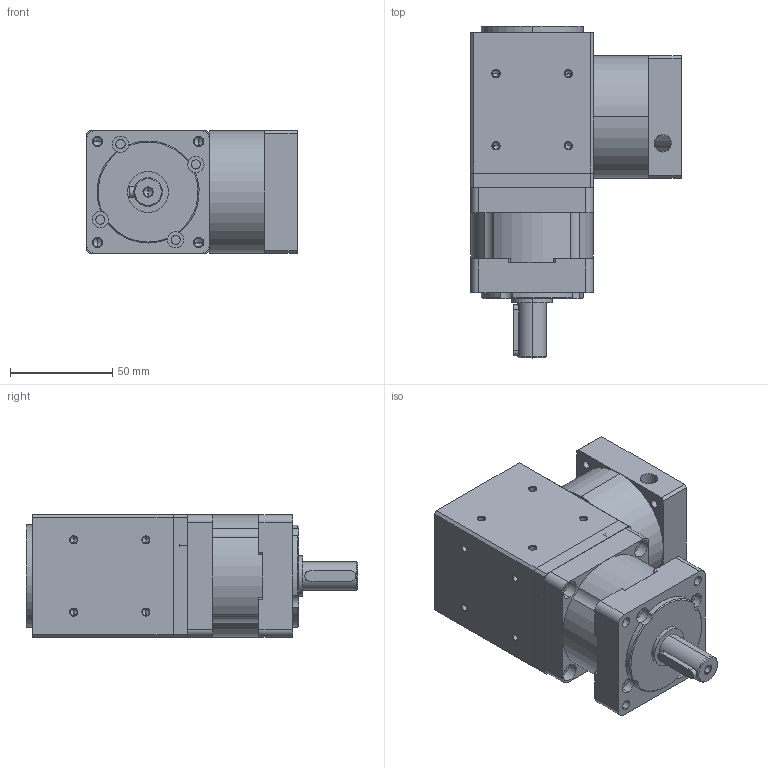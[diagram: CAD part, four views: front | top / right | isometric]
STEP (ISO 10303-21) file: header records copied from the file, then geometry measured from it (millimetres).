
FILE_DESCRIPTION (( 'STEP AP214' ), '1' );
FILE_NAME ('QLAS-060-000-SMBAC21-Rev2.STEP', '2015-07-29T15:47:00', ( '' ), ( '' ), 'SwSTEP 2.0', 'SolidWorks 2015', '' );
FILE_SCHEMA (( 'AUTOMOTIVE_DESIGN' ));
Length unit declared in the file: millimetre
Products named in the file (7): B6807ZZ_B6807ZZ; bearingB6807ZZ___; S-060-005-Rev2; RD3x3-8; Q000-060-005-0GB020; QLAS-060-000-SMBAC21; QLAS-060-000-SMBAC21-Rev2
Assembly tree (6 placements, depth 3):
  QLAS-060-000-SMBAC21-Rev2
    QLAS-060-000-SMBAC21
    Q000-060-005-0GB020
    RD3x3-8
    S-060-005-Rev2
    B6807ZZ_B6807ZZ
      bearingB6807ZZ___
Bounding box: 103 x 162.5 x 60 mm (x, y, z)
Volume: 553298.9 mm3; surface area: 104086 mm2
Topology: 10 solids, 10 shells, 462 faces, 1123 edges, 682 vertices
Faces by surface type: cylinder 252, plane 101, cone 93, torus 16
Entity records: 16503 total; most frequent: DIRECTION 2584, CARTESIAN_POINT 2434, ORIENTED_EDGE 2142, EDGE_CURVE 1071, AXIS2_PLACEMENT_3D 1056, VERTEX_POINT 682, CIRCLE 584, EDGE_LOOP 577
